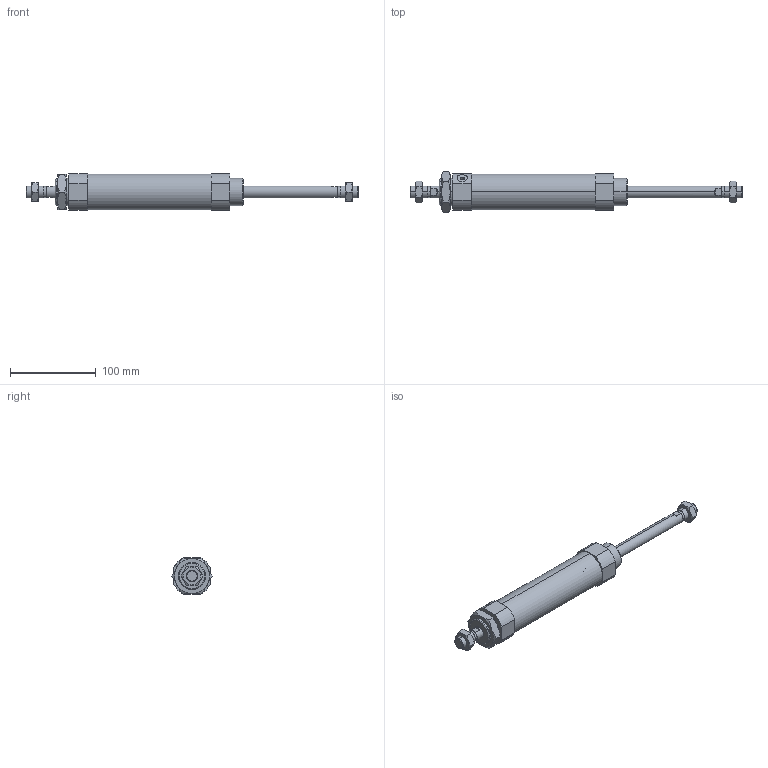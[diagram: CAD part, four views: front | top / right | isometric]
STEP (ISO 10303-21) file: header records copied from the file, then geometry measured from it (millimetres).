
FILE_DESCRIPTION (( 'STEP AP203' ), '1' );
FILE_NAME ('CSM2B40-100-P.STEP', '2020-07-20T16:50:57', ( '' ), ( '' ), 'SwSTEP 2.0', 'SolidWorks 2019', '' );
FILE_SCHEMA (( 'CONFIG_CONTROL_DESIGN' ));
Length unit declared in the file: millimetre
Products named in the file (1): CSM2B40-100-P
Bounding box: 388 x 47.34 x 42.5 mm (x, y, z)
Volume: 219500.1 mm3; surface area: 79464.9 mm2
Topology: 5 solids, 5 shells, 155 faces, 362 edges, 227 vertices
Faces by surface type: plane 63, cylinder 48, cone 44
Entity records: 5729 total; most frequent: CARTESIAN_POINT 2109, DIRECTION 750, ORIENTED_EDGE 720, EDGE_CURVE 360, AXIS2_PLACEMENT_3D 296, VERTEX_POINT 227, EDGE_LOOP 179, VECTOR 158
